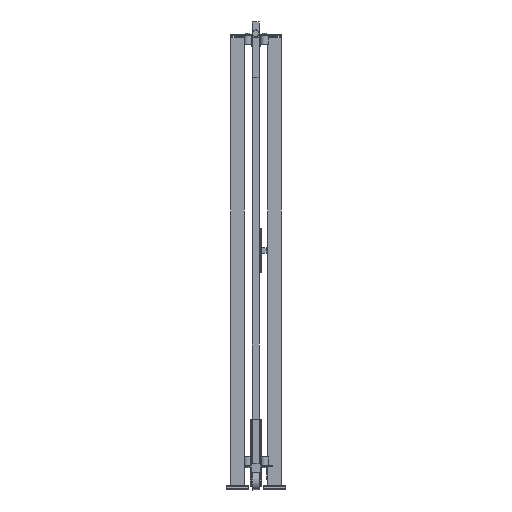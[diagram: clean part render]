
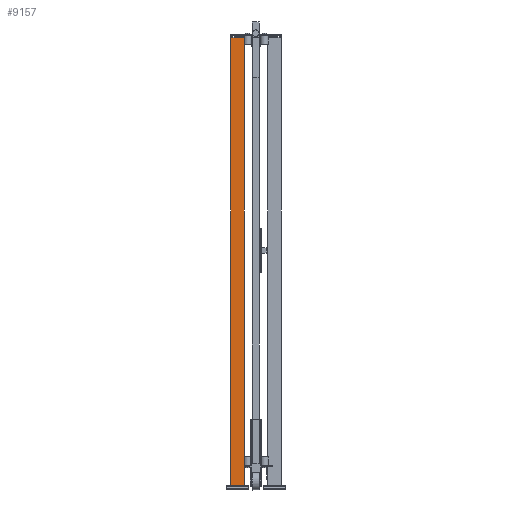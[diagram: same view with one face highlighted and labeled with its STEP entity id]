
A CAD part, left-side view. The second image highlights one B-rep face of the part: STEP entity #9157.
In plain terms, the highlighted planar face has unit normal (-1, 0, 0) as drawn and (0, 1, 0) by its records, which use the part's own axes.
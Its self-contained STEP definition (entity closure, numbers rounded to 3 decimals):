
#925=FACE_OUTER_BOUND('',#1609,.T.);
#1609=EDGE_LOOP('',(#5715,#5716,#5717,#5718));
#2392=VERTEX_POINT('',#18977);
#2393=VERTEX_POINT('',#18979);
#2395=VERTEX_POINT('',#18985);
#2398=VERTEX_POINT('',#18990);
#3708=EDGE_CURVE('',#2392,#2393,#10659,.T.);
#3714=EDGE_CURVE('',#2398,#2395,#10665,.T.);
#3717=EDGE_CURVE('',#2393,#2398,#10668,.T.);
#3718=EDGE_CURVE('',#2392,#2395,#10669,.T.);
#5715=ORIENTED_EDGE('',*,*,#3718,.T.);
#5716=ORIENTED_EDGE('',*,*,#3714,.F.);
#5717=ORIENTED_EDGE('',*,*,#3717,.F.);
#5718=ORIENTED_EDGE('',*,*,#3708,.F.);
#8533=PLANE('',#13609);
#9157=ADVANCED_FACE('',(#925),#8533,.F.);
#10659=LINE('',#18980,#12252);
#10665=LINE('',#18992,#12258);
#10668=LINE('',#18997,#12261);
#10669=LINE('',#18999,#12262);
#12252=VECTOR('',#15093,1.);
#12258=VECTOR('',#15101,1.);
#12261=VECTOR('',#15108,1.);
#12262=VECTOR('',#15111,1.);
#13609=AXIS2_PLACEMENT_3D('',#18998,#15109,#15110);
#15093=DIRECTION('',(-1.,0.,0.));
#15101=DIRECTION('',(1.,0.,0.));
#15108=DIRECTION('',(0.,0.,-1.));
#15109=DIRECTION('center_axis',(0.,-1.,0.));
#15110=DIRECTION('ref_axis',(0.,0.,-1.));
#15111=DIRECTION('',(0.,0.,-1.));
#18977=CARTESIAN_POINT('',(30.,30.,2020.));
#18979=CARTESIAN_POINT('',(-30.,30.,2020.));
#18980=CARTESIAN_POINT('',(0.,30.,2020.));
#18985=CARTESIAN_POINT('',(30.,30.,20.));
#18990=CARTESIAN_POINT('',(-30.,30.,20.));
#18992=CARTESIAN_POINT('',(0.,30.,20.));
#18997=CARTESIAN_POINT('',(-30.,30.,1020.));
#18998=CARTESIAN_POINT('Origin',(0.,30.,
1020.));
#18999=CARTESIAN_POINT('',(30.,30.,1020.));
